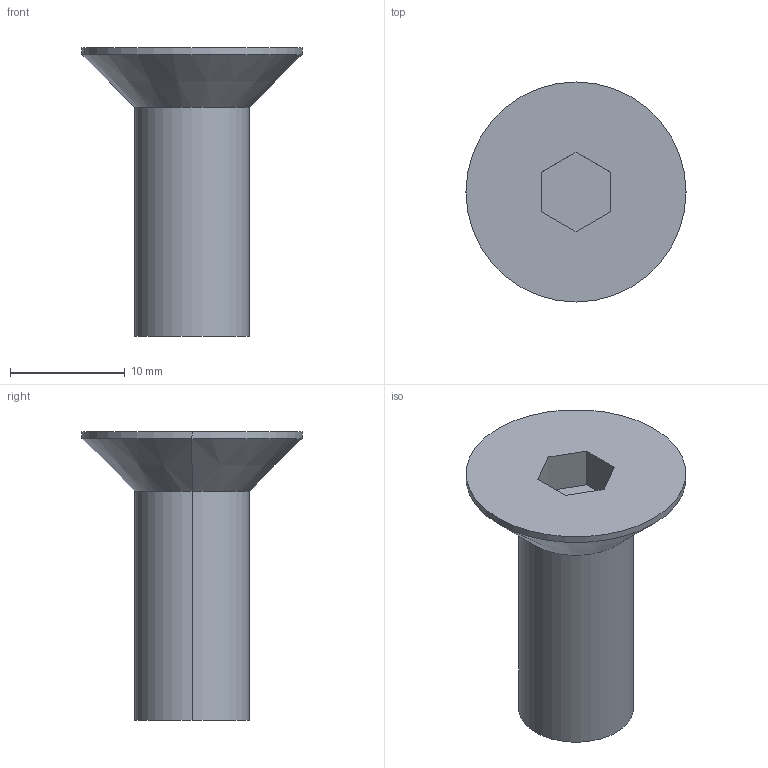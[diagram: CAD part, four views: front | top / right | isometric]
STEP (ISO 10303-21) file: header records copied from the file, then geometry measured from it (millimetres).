
FILE_DESCRIPTION (( 'STEP AP214' ), '1' );
FILE_NAME ('COUNTERSHUNK_HEAD_BOLT_M10(L=020).STEP', '2021-09-18T10:20:54', ( '' ), ( '' ), 'SwSTEP 2.0', 'SolidWorks 2018', '' );
FILE_SCHEMA (( 'AUTOMOTIVE_DESIGN' ));
Length unit declared in the file: millimetre
Products named in the file (1): COUNTERSHUNK_HEAD_BOLT_M10(L=020)
Bounding box: 19.22 x 19.22 x 25.22 mm (x, y, z)
Volume: 2434 mm3; surface area: 1407.9 mm2
Topology: 1 solids, 1 shells, 15 faces, 32 edges, 20 vertices
Faces by surface type: plane 9, cylinder 4, cone 2
Entity records: 436 total; most frequent: DIRECTION 72, CARTESIAN_POINT 68, ORIENTED_EDGE 64, EDGE_CURVE 32, LINE 24, VECTOR 24, AXIS2_PLACEMENT_3D 24, VERTEX_POINT 20
